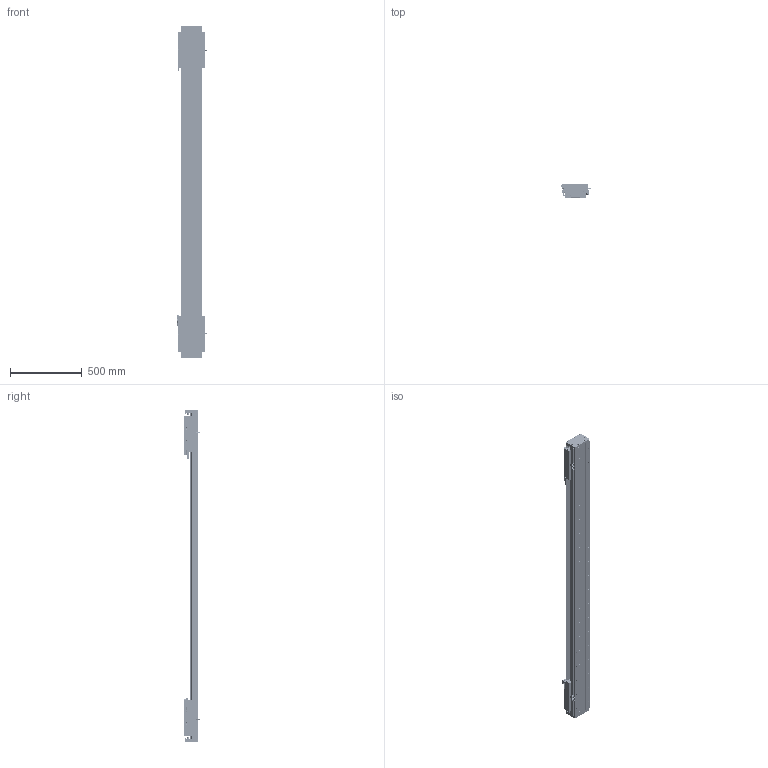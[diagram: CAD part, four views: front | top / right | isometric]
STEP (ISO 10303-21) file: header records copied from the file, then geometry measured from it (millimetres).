
FILE_DESCRIPTION (( 'STEP AP203' ), '1' );
FILE_NAME ('DA-C145-2-C3-T1700-C010-0.2 眻盄萇儂.STEP', '2025-08-13T10:22:29', ( '' ), ( '' ), 'SwSTEP 2.0', 'SolidWorks 2019', '' );
FILE_SCHEMA (( 'CONFIG_CONTROL_DESIGN' ));
Length unit declared in the file: millimetre
Products named in the file (38): 复件 DA146 钢带垫块^复件 CU145 钢带组件_DA-C145-2-C3-T-C010-0.2; DKW-GYP-ZJ-00 笢潔嫖萇覜茼え; 复件 DA95-HK-GT-00 滑块钢轨^CU145-W-00 一体化滑动台板; IU-CU145-L 菁釱絳寢; 复件 DA145-C3-DK-00 挡块^CU145-W 滚珠滑台; CU145-W-00 珨极趙賑雄怢啣-1; TAY01-M8; 复件 纯铜油杯 6x6mm^CU145-W 滚珠滑台; 葩璃 DA95-HXJ-00 遣喳砎蝶^DA-C145-2-C3-T-C010-0.2; 葩璃 CKM03-W060-C1C2-TP-0.2^DA-C145-2-C3-T-C010-0.2; 复件 DA145-C3-YB-A-00 压板A^CU145-W 滚珠滑台; DA-C145-2-C3-T1700-C010-0.2 眻盄萇儂; 复件 DA145-GYP-00 光电感应片^DA-C145-2-C3-T-C010-0.2; 葩璃 CU145 詩湍郪璃^DA-C145-2-C3-T-C010-0.2; 葩璃 PM-T45^DA-C145-2-C3-T-C010-0.2; CU145-W-00 珨极趙賑雄怢啣; 葩璃 鞠褒情蹟譫 M3^DA-C145-2-C3-T-C010-0.2; 葩璃 XD-U-02L 棠掑喜^DA-C145-2-C3-T-C010-0.2; 复件 内六角平端紧定螺钉 GB.T77-2000 M5×10^CU145-W 滚珠滑台; 复件 DA145 钢带^复件 CU145 钢带组件_DA-C145-2-C3-T-C010-0.2; 葩璃 DA145-C3-DP-A-00 菜えA^CU145-W 幗紩賑怢; 66245-CU145-HT-W-00 賑雄怢啣(3D芞祧)(00); 葩璃 PM-Y65^DA-C145-2-C3-T-C010-0.2; 葩璃 DMA-010-0.2 黍杅芛^DA-C145-2-C3-T-C010-0.2; 复件 DA95-DB-00  挡板^CU145-W 滚珠滑台; 复件 DA95-MFP-01 密封片^CU145-W 滚珠滑台; 复件 半圆头内六角螺钉 M3×6^CU145-W 滚珠滑台; CU145-W 幗紩賑怢; IU-CU145-L-00 菁釱(L2280); DKW-KGZ-ZJ-00 中间光电开关支架; DKW168-HXJ-ZJ-00 笢潔滅袉砎蝶; 葩璃 DA145-C3-DP-B-00 菜えB^CU145-W 幗紩賑怢; 葩璃 DA95-GT-T-00^IU-CU145-L 菁釱絳寢; CU145-W 幗紩賑怢-1; 复件 DA145-C3-YB-B-00 压板B^CU145-W 滚珠滑台; 复件 DA145-DG 钢带端盖^复件 CU145 钢带组件_DA-C145-2-C3-T-C010-0.2; 复件 DA146 钢带拉块^复件 CU145 钢带组件_DA-C145-2-C3-T-C010-0.2; 葩璃 CKMA01-W060-TRL^DA-C145-2-C3-T-C010-0.2
Assembly tree (180 placements, depth 4):
  DA-C145-2-C3-T1700-C010-0.2 眻盄萇儂
    IU-CU145-L 菁釱絳寢
      IU-CU145-L-00 菁釱(L2280)
      葩璃 DA95-GT-T-00^IU-CU145-L 菁釱絳寢  x4
    葩璃 CU145 詩湍郪璃^DA-C145-2-C3-T-C010-0.2
      复件 DA145-DG 钢带端盖^复件 CU145 钢带组件_DA-C145-2-C3-T-C010-0.2  x2
      复件 DA146 钢带拉块^复件 CU145 钢带组件_DA-C145-2-C3-T-C010-0.2  x2
      复件 DA146 钢带垫块^复件 CU145 钢带组件_DA-C145-2-C3-T-C010-0.2  x2
      复件 DA145 钢带^复件 CU145 钢带组件_DA-C145-2-C3-T-C010-0.2
    CU145-W 幗紩賑怢
      CU145-W-00 珨极趙賑雄怢啣
        66245-CU145-HT-W-00 賑雄怢啣(3D芞祧)(00)
        复件 DA95-HK-GT-00 滑块钢轨^CU145-W-00 一体化滑动台板  x8
      复件 DA95-MFP-01 密封片^CU145-W 滚珠滑台  x8
      复件 DA95-DB-00  挡板^CU145-W 滚珠滑台  x8
      复件 内六角平端紧定螺钉 GB.T77-2000 M5×10^CU145-W 滚珠滑台  x4
      复件 纯铜油杯 6x6mm^CU145-W 滚珠滑台  x4
      复件 半圆头内六角螺钉 M3×6^CU145-W 滚珠滑台  x16
      复件 DA145-C3-DK-00 挡块^CU145-W 滚珠滑台  x4
      葩璃 DA145-C3-DP-B-00 菜えB^CU145-W 幗紩賑怢  x2
      复件 DA145-C3-YB-B-00 压板B^CU145-W 滚珠滑台  x2
      葩璃 DA145-C3-DP-A-00 菜えA^CU145-W 幗紩賑怢  x3
      复件 DA145-C3-YB-A-00 压板A^CU145-W 滚珠滑台  x3
      TAY01-M8  x4
    CU145-W 幗紩賑怢-1
      CU145-W-00 珨极趙賑雄怢啣-1
        66245-CU145-HT-W-00 賑雄怢啣(3D芞祧)(00)
        复件 DA95-HK-GT-00 滑块钢轨^CU145-W-00 一体化滑动台板  x8
      复件 DA95-MFP-01 密封片^CU145-W 滚珠滑台  x8
      复件 DA95-DB-00  挡板^CU145-W 滚珠滑台  x8
      复件 内六角平端紧定螺钉 GB.T77-2000 M5×10^CU145-W 滚珠滑台  x4
      复件 纯铜油杯 6x6mm^CU145-W 滚珠滑台  x4
      复件 半圆头内六角螺钉 M3×6^CU145-W 滚珠滑台  x16
      复件 DA145-C3-DK-00 挡块^CU145-W 滚珠滑台  x4
      葩璃 DA145-C3-DP-B-00 菜えB^CU145-W 幗紩賑怢  x2
      复件 DA145-C3-YB-B-00 压板B^CU145-W 滚珠滑台  x2
      葩璃 DA145-C3-DP-A-00 菜えA^CU145-W 幗紩賑怢  x3
      复件 DA145-C3-YB-A-00 压板A^CU145-W 滚珠滑台  x3
      TAY01-M8  x4
    葩璃 CKMA01-W060-TRL^DA-C145-2-C3-T-C010-0.2
    葩璃 PM-T45^DA-C145-2-C3-T-C010-0.2  x4
    葩璃 XD-U-02L 棠掑喜^DA-C145-2-C3-T-C010-0.2
    葩璃 DA95-HXJ-00 遣喳砎蝶^DA-C145-2-C3-T-C010-0.2  x4
    葩璃 CKM03-W060-C1C2-TP-0.2^DA-C145-2-C3-T-C010-0.2  x2
    葩璃 DMA-010-0.2 黍杅芛^DA-C145-2-C3-T-C010-0.2  x2
    复件 DA145-GYP-00 光电感应片^DA-C145-2-C3-T-C010-0.2  x2
    DKW-GYP-ZJ-00 笢潔嫖萇覜茼え
    DKW-KGZ-ZJ-00 中间光电开关支架
    葩璃 PM-Y65^DA-C145-2-C3-T-C010-0.2
    葩璃 鞠褒情蹟譫 M3^DA-C145-2-C3-T-C010-0.2  x8
    DKW168-HXJ-ZJ-00 笢潔滅袉砎蝶
Bounding box: 213.7 x 108.45 x 2316 mm (x, y, z)
Volume: 13101225.8 mm3; surface area: 4083395.4 mm2
Topology: 175 solids, 239 shells, 7448 faces, 19977 edges, 12337 vertices
Faces by surface type: cylinder 3163, plane 2945, cone 1184, torus 140, sphere 8, bspline 8
Entity records: 133112 total; most frequent: CARTESIAN_POINT 37196, ORIENTED_EDGE 18640, DIRECTION 18025, EDGE_CURVE 9320, AXIS2_PLACEMENT_3D 6621, VERTEX_POINT 6036, LINE 4783, VECTOR 4783
